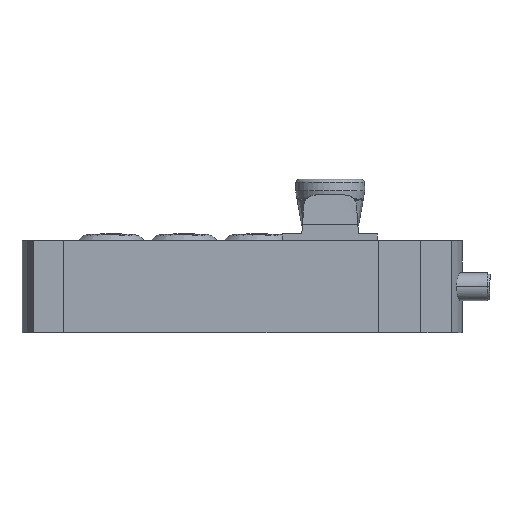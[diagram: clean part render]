
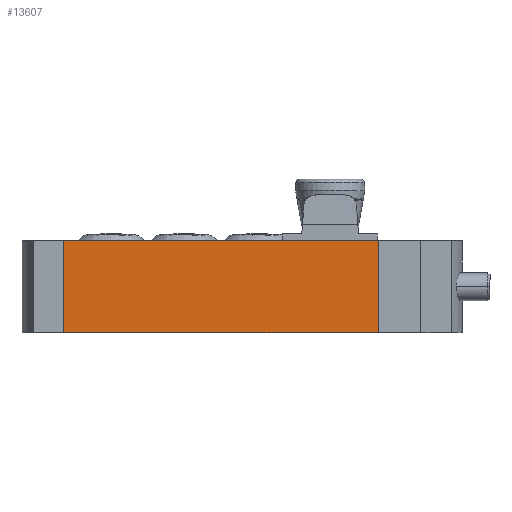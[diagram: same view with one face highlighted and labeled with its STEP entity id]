
A CAD part, left-side view. The second image highlights one B-rep face of the part: STEP entity #13607.
In plain terms, the highlighted planar face has unit normal (-1, 0, 0) as drawn and (0, 0, 1) by its records, which use the part's own axes.
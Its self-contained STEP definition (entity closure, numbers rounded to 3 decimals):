
#2109 = VERTEX_POINT ( 'NONE', #17808 ) ;
#3013 = CARTESIAN_POINT ( 'NONE',  ( 68.35, 40., 20. ) ) ;
#3027 = CARTESIAN_POINT ( 'NONE',  ( 68.35, 40., 20. ) ) ;
#5002 = LINE ( 'NONE', #12867, #8787 ) ;
#5057 = VECTOR ( 'NONE', #15594, 1000. ) ;
#7150 = LINE ( 'NONE', #3013, #19490 ) ;
#7429 = ORIENTED_EDGE ( 'NONE', *, *, #18319, .T. ) ;
#7514 = FACE_OUTER_BOUND ( 'NONE', #7728, .T. ) ;
#7728 = EDGE_LOOP ( 'NONE', ( #13106, #20911, #20651, #7429 ) ) ;
#8787 = VECTOR ( 'NONE', #20759, 1000. ) ;
#10536 = VERTEX_POINT ( 'NONE', #3027 ) ;
#10882 = DIRECTION ( 'NONE',  ( 0., -1., 0. ) ) ;
#10982 = VERTEX_POINT ( 'NONE', #15126 ) ;
#12867 = CARTESIAN_POINT ( 'NONE',  ( -68.35, 0., 20. ) ) ;
#13106 = ORIENTED_EDGE ( 'NONE', *, *, #23282, .T. ) ;
#13201 = AXIS2_PLACEMENT_3D ( 'NONE', #19378, #15375, #23385 ) ;
#13607 = ADVANCED_FACE ( 'NONE', ( #7514 ), #24943, .F. ) ;
#15126 = CARTESIAN_POINT ( 'NONE',  ( -68.35, 40., 20. ) ) ;
#15375 = DIRECTION ( 'NONE',  ( 0., 0., -1. ) ) ;
#15594 = DIRECTION ( 'NONE',  ( 1., 0., 0. ) ) ;
#16990 = VERTEX_POINT ( 'NONE', #21565 ) ;
#17808 = CARTESIAN_POINT ( 'NONE',  ( 68.35, 0., 20. ) ) ;
#18319 = EDGE_CURVE ( 'NONE', #10982, #16990, #22459, .T. ) ;
#19378 = CARTESIAN_POINT ( 'NONE',  ( -68.35, 40., 20. ) ) ;
#19490 = VECTOR ( 'NONE', #10882, 1000. ) ;
#20651 = ORIENTED_EDGE ( 'NONE', *, *, #22983, .F. ) ;
#20759 = DIRECTION ( 'NONE',  ( 1., 0., 0. ) ) ;
#20911 = ORIENTED_EDGE ( 'NONE', *, *, #22598, .F. ) ;
#21564 = CARTESIAN_POINT ( 'NONE',  ( -68.35, 40., 20. ) ) ;
#21565 = CARTESIAN_POINT ( 'NONE',  ( -68.35, 0., 20. ) ) ;
#22078 = DIRECTION ( 'NONE',  ( 0., -1., 0. ) ) ;
#22459 = LINE ( 'NONE', #24409, #24767 ) ;
#22598 = EDGE_CURVE ( 'NONE', #10536, #2109, #7150, .T. ) ;
#22983 = EDGE_CURVE ( 'NONE', #10982, #10536, #23107, .T. ) ;
#23107 = LINE ( 'NONE', #21564, #5057 ) ;
#23282 = EDGE_CURVE ( 'NONE', #16990, #2109, #5002, .T. ) ;
#23385 = DIRECTION ( 'NONE',  ( -1., 0., 0. ) ) ;
#24409 = CARTESIAN_POINT ( 'NONE',  ( -68.35, 40., 20. ) ) ;
#24767 = VECTOR ( 'NONE', #22078, 1000. ) ;
#24943 = PLANE ( 'NONE',  #13201 ) ;
